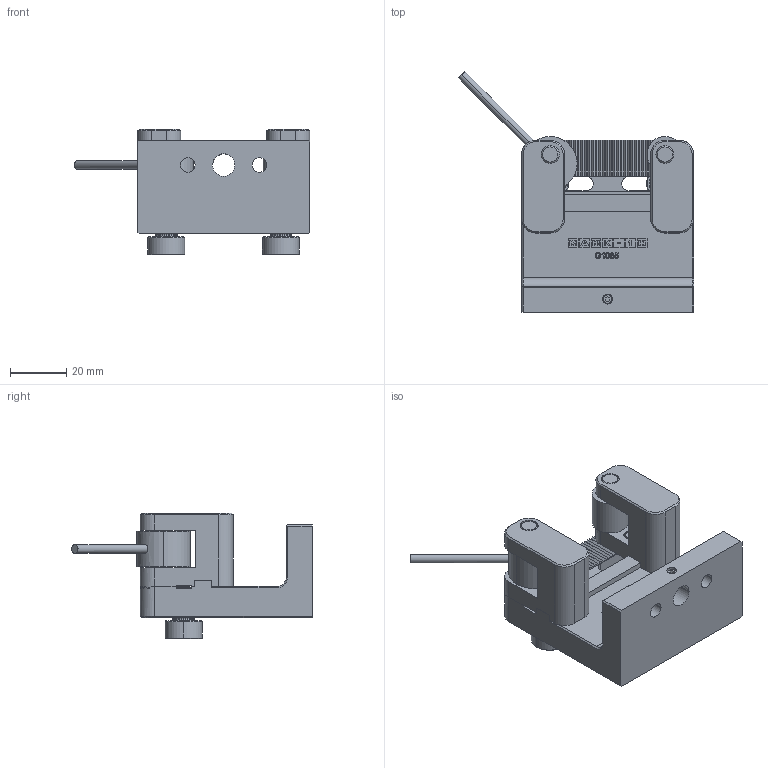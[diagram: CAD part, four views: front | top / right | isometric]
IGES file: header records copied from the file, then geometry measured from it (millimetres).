
Global section: file name: No Iges File Name specified; native system: Autodesk Inventor 2010; preprocessor: AutoDesk Inventor Iges Exporter R2010; author: mlampen; date: 20170420.120054; units: inch
Bounding box: 83.35 x 85.26 x 44.54 mm (x, y, z)
Volume: 75295.9 mm3; surface area: 27816.8 mm2
Topology: 14 solids, 20 shells, 1094 faces, 2815 edges, 1775 vertices
Faces by surface type: plane 552, cone 192, cylinder 174, bspline 109, revolution 59, torus 8
